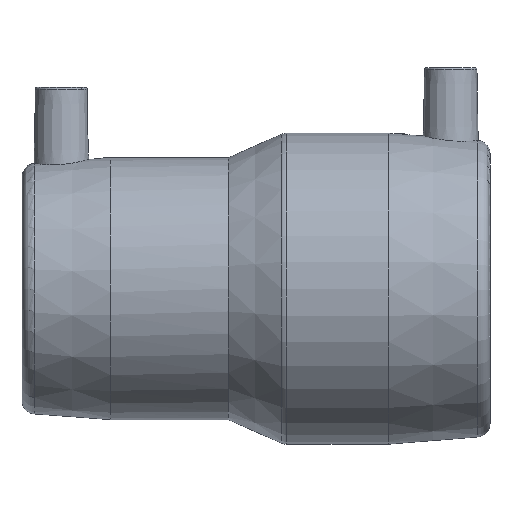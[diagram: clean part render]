
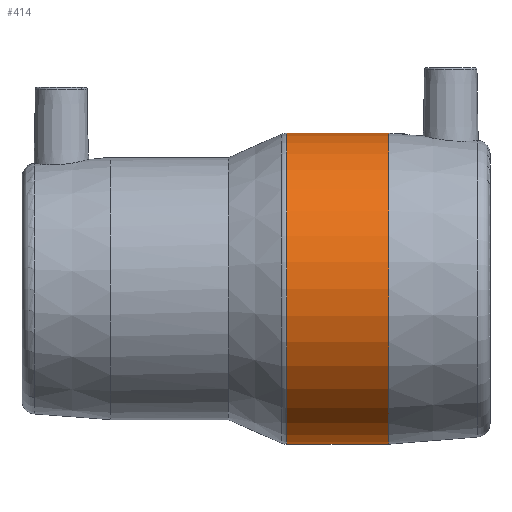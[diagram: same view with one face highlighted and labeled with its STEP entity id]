
A CAD part, front view. The second image highlights one B-rep face of the part: STEP entity #414.
In plain terms, the highlighted cylindrical face has radius 47.5 mm (diameter 95 mm), a full revolution.
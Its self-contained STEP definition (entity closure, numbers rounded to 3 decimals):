
#56=CYLINDRICAL_SURFACE('',#469,47.5);
#70=CIRCLE('',#461,47.5);
#76=CIRCLE('',#470,47.5);
#111=ORIENTED_EDGE('',*,*,#200,.T.);
#112=ORIENTED_EDGE('',*,*,#190,.T.);
#190=EDGE_CURVE('',#235,#235,#70,.T.);
#200=EDGE_CURVE('',#244,#244,#76,.T.);
#235=VERTEX_POINT('',#682);
#244=VERTEX_POINT('',#725);
#284=EDGE_LOOP('',(#111));
#285=EDGE_LOOP('',(#112));
#348=FACE_BOUND('',#284,.T.);
#349=FACE_BOUND('',#285,.T.);
#414=ADVANCED_FACE('',(#348,#349),#56,.T.);
#461=AXIS2_PLACEMENT_3D('',#681,#529,#530);
#469=AXIS2_PLACEMENT_3D('',#723,#547,#548);
#470=AXIS2_PLACEMENT_3D('',#724,#549,#550);
#529=DIRECTION('',(-1.,0.,0.));
#530=DIRECTION('',(0.,0.,1.));
#547=DIRECTION('',(-1.,0.,0.));
#548=DIRECTION('',(0.,0.,1.));
#549=DIRECTION('',(1.,0.,0.));
#550=DIRECTION('',(0.,0.,-1.));
#681=CARTESIAN_POINT('',(40.5,0.,0.));
#682=CARTESIAN_POINT('',(40.5,0.,47.5));
#723=CARTESIAN_POINT('',(-60.,0.,0.));
#724=CARTESIAN_POINT('',(9.343,0.,0.));
#725=CARTESIAN_POINT('',(9.343,0.,-47.5));
